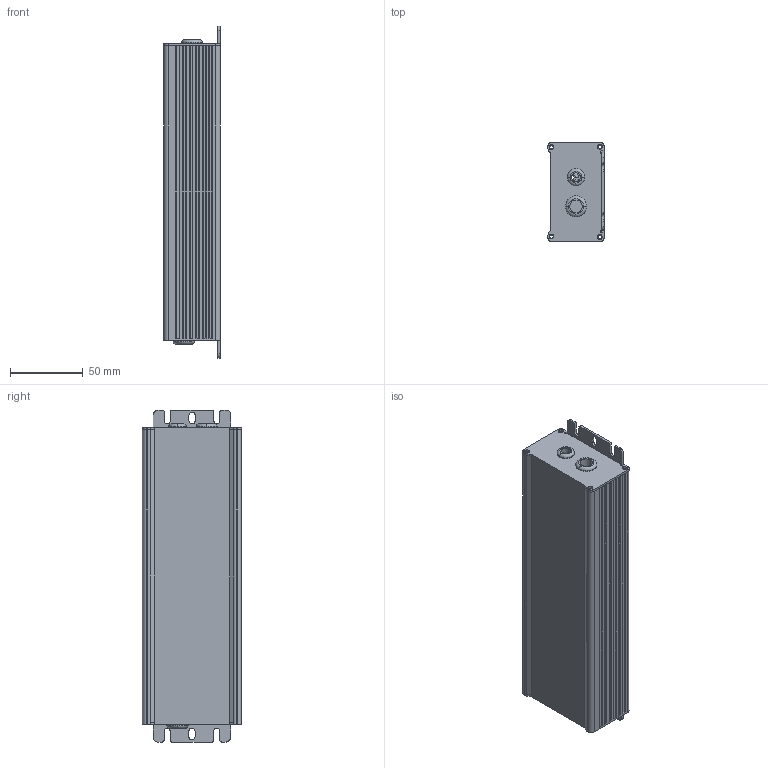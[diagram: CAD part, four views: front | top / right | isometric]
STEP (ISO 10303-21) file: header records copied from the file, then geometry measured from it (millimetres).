
FILE_DESCRIPTION(('OneSpaceDesigner STEP Export'),'2;1');
FILE_NAME('HLG-185-B.stp','2010-06-21T13:51:06',(''),(''),'OneSpace Designer STEP processor for AP214 (Solid Model)','OneSpace Designer 13.20 11-May-2005 (C) CoCreate Software GmbH','');
FILE_SCHEMA(('AUTOMOTIVE_DESIGN { 1 0 10303 214 1 1 1 1 }'));
Length unit declared in the file: millimetre
Products named in the file (2): ¤W»\; HLG-185-B.stp
Assembly tree (1 placements, depth 2):
  HLG-185-B.stp
    ¤W»\
Bounding box: 38.74 x 68.05 x 228 mm (x, y, z)
Volume: 97366.4 mm3; surface area: 105083 mm2
Topology: 1 solids, 1 shells, 264 faces, 765 edges, 496 vertices
Faces by surface type: plane 154, cylinder 95, torus 15
Full cylindrical faces by diameter (mm): 14.5 x1
Entity records: 8571 total; most frequent: CARTESIAN_POINT 2064, ORIENTED_EDGE 1526, DIRECTION 1183, EDGE_CURVE 763, VERTEX_POINT 495, VECTOR 471, LINE 471, AXIS2_PLACEMENT_3D 356
